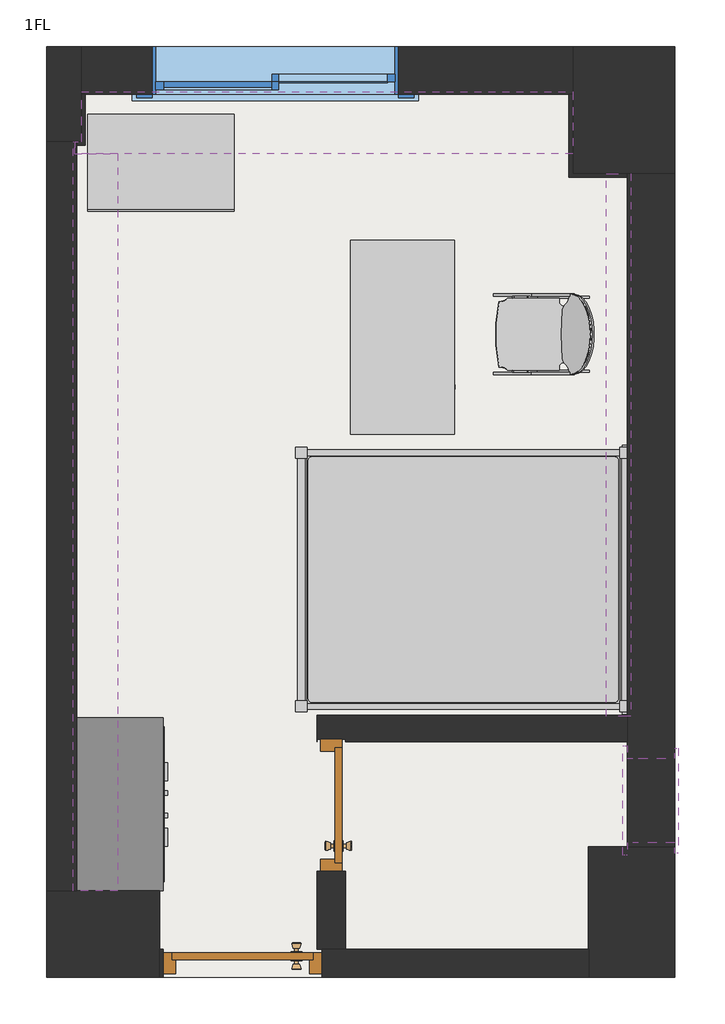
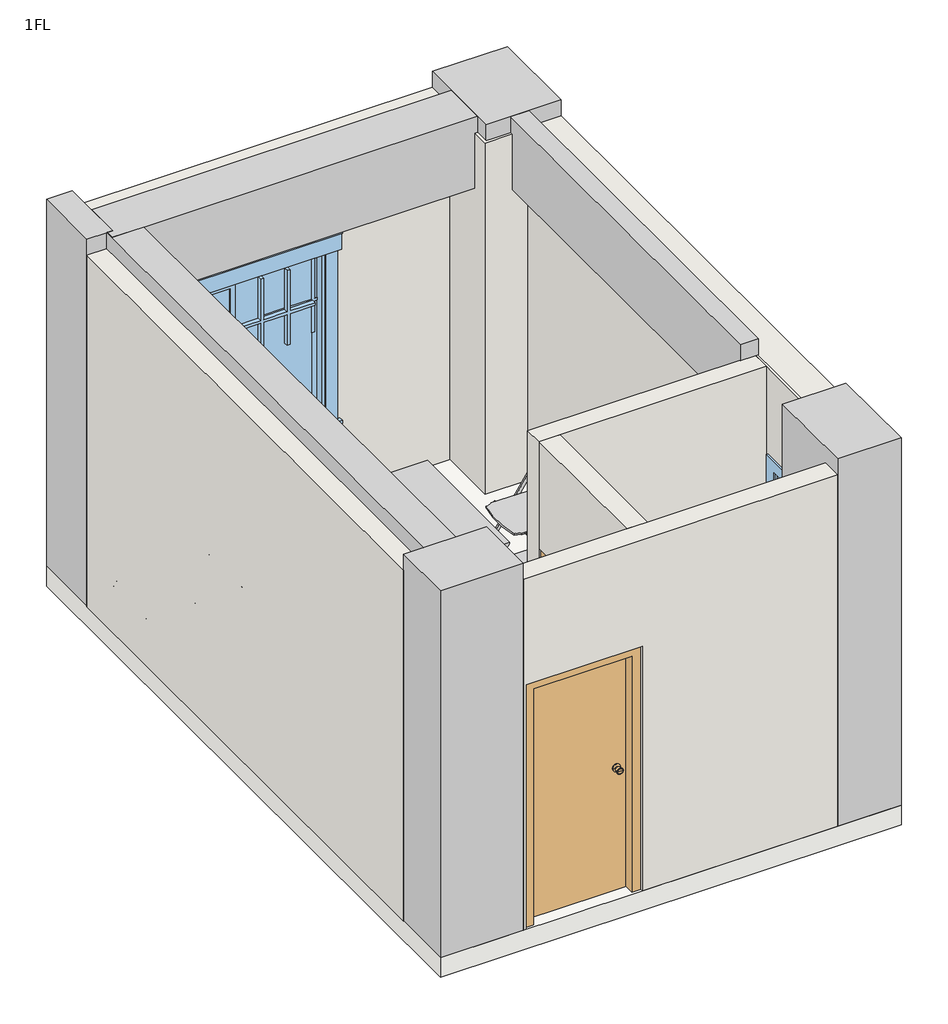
# One storey: 7 walls, 5 furniture elements, 4 columns, 3 beams, 2 doors, 2 windows, 1 slab.
"""IFC4 building model written with IfcOpenShell, lengths in millimetres."""

from ifc_helpers import new_model, si_unit, frame, origin, place, context, project, spatial, polyline, outline, extrude, faceted_brep, transform, mapped, element, save
from components import column_49_x_74cm_deb33982, door_75_x_200_cm_865d52c3, door_90_x_200_cm_73eb9ed9, furniture_3fc448d0, furniture_719fa588, furniture_f24e557b, furniture_dfe98725, china_bed_4dd21ba8, furniture_dc80c863, wall_cee839fa, window_8c946150, window_f16435bf

model = new_model("IFC4")

# Units and contexts
model_context = context("Model", 3, world=origin())
ifc_project = project(units=[si_unit("LENGTHUNIT", "METRE", prefix="MILLI")], contexts=[model_context])

# Site, building, storey
site = spatial("IfcSite", under=ifc_project)
building = spatial("IfcBuilding", under=site)
storey = spatial("IfcBuildingStorey", under=building, Name="1FL", Elevation=300.0)

# Beams
placement = place(None, origin())
element("IfcBeam", 1, ObjectType="混凝土樑-矩形 : 14 x 303cm", at=placement, inside=storey, context=model_context, shape_type="SweptSolid", body=[
    extrude(outline(polyline([(2375.4977464, -2205.3821637), (2235.4977464, -2205.3821637), (2235.4977464, 868.967972), (2375.4977464, 868.967972), (2375.4977464, -2205.3821637)])), frame((0.0, 0.0, 2720.0), z_axis=(0.0, 0.0, 1.0), x_axis=(1.0, 0.0, 0.0)), (0.0, 0.0, 1.0), 580.0),
])
element("IfcBeam", 2, ObjectType="混凝土樑-矩形 : 25 x 451.5cm", at=placement, inside=storey, context=model_context, shape_type="SweptSolid", body=[
    extrude(outline(polyline([(-784.5022536, -3194.327457), (-784.5022536, 1048.967972), (-778.221975, 1048.967972), (-778.221975, 982.1369238), (-534.5022536, 982.1369238), (-534.5022536, -3194.327457), (-784.5022536, -3194.327457)])), frame((0.0, 0.0, 2800.0), z_axis=(0.0, 0.0, 1.0), x_axis=(1.0, 0.0, 0.0)), (0.0, 0.0, 1.0), 500.0),
])
element("IfcBeam", 3, ObjectType="混凝土樑-矩形 : 35 x 283cm", at=placement, inside=storey, context=model_context, shape_type="Brep", body=[
    faceted_brep([(-778.221975, 982.1369238, 3300.0), (-534.5022536, 982.1369238, 3300.0), (2045.4977464, 982.1369238, 3300.0), (2045.4977464, 1332.1369238, 3300.0), (-736.8833533, 1332.1369238, 3300.0), (-736.8833533, 1048.967972, 3300.0), (-778.221975, 1048.967972, 3300.0), (2045.4977464, 1332.1369238, 2720.0), (-736.8833533, 1332.1369238, 2720.0), (2045.4977464, 982.1369238, 2720.0), (-778.221975, 982.1369238, 2720.0), (-778.221975, 1048.967972, 2720.0), (-736.8833533, 1048.967972, 2720.0), (-778.221975, 982.1369238, 2800.0), (-778.221975, 1048.967972, 2800.0)], [[[0, 1, 2, 3, 4, 5, 6]], [[3, 7, 8, 4]], [[9, 10, 11, 12, 8, 7]], [[0, 13, 10, 9, 2, 1]], [[10, 13, 0, 6, 14, 11]], [[3, 2, 9, 7]], [[5, 12, 11, 14, 6]], [[12, 5, 4, 8]]]),
])

# Columns
element("IfcColumn", 4, ObjectType="混凝土柱-矩形 : 20 x 54cm", at=placement, inside=storey, context=model_context, shape_type="Brep", body=[
    faceted_brep([(-736.8833533, 1588.967972, 3300.0), (-936.8833533, 1588.967972, 3300.0), (-936.8833533, 1048.967972, 3300.0), (-784.5022536, 1048.967972, 3300.0), (-778.221975, 1048.967972, 3300.0), (-736.8833533, 1048.967972, 3300.0), (-736.8833533, 1588.967972, 300.0), (-736.8833533, 1048.967972, 300.0), (-936.8833533, 1048.967972, 300.0), (-936.8833533, 1588.967972, 300.0)], [[[0, 1, 2, 3, 4, 5]], [[6, 7, 8, 9]], [[1, 0, 6, 9]], [[2, 1, 9, 8]], [[5, 4, 3, 2, 8, 7]], [[0, 5, 7, 6]]]),
])
element("IfcColumn", 5, ObjectType="混凝土柱-矩形 : 49 x 64cm", at=placement, inside=storey, context=model_context, shape_type="SweptSolid", body=[
    extrude(outline(polyline([(-936.8833533, -3194.327457), (-296.8833533, -3194.327457), (-296.8833533, -3684.327457), (-936.8833533, -3684.327457), (-936.8833533, -3194.327457)])), frame((0.0, 0.0, 300.0), z_axis=(0.0, 0.0, 1.0), x_axis=(1.0, 0.0, 0.0)), (0.0, 0.0, 1.0), 3000.0),
])
column_49_x_74cm_shape = column_49_x_74cm_deb33982(model_context)
element("IfcColumn", 6, ObjectType="混凝土柱-矩形 : 49 x 74cm", at=placement, inside=storey, context=model_context, shape_type="MappedRepresentation", body=[
    mapped(column_49_x_74cm_shape, transform((2380.4977464, -3314.327457, 0.0), x_axis=(1.0, 0.0, 0.0), y_axis=(0.0, 1.0, 0.0), z_axis=(0.0, 0.0, 1.0))),
])
element("IfcColumn", 7, ObjectType="混凝土柱-矩形 : 58 x 72cm", at=placement, inside=storey, context=model_context, shape_type="SweptSolid", body=[
    extrude(outline(polyline([(2625.4977464, 1588.967972), (2625.4977464, 868.967972), (2045.4977464, 868.967972), (2045.4977464, 1588.967972), (2625.4977464, 1588.967972)])), frame((0.0, 0.0, 300.0), z_axis=(0.0, 0.0, 1.0), x_axis=(1.0, 0.0, 0.0)), (0.0, 0.0, 1.0), 3000.0),
])

# Doors
door_75_x_200_cm_shape = door_75_x_200_cm_865d52c3(model_context)
element("IfcDoor", 8, ObjectType="單開-矩形- (1) : 75 x 200 cm", at=placement, inside=storey, context=model_context, shape_type="MappedRepresentation", body=[
    mapped(door_75_x_200_cm_shape, transform((887.7171048, -2709.327457, 300.0), x_axis=(0.0, -1.0, 0.0), y_axis=(1.0, 0.0, 0.0), z_axis=(0.0, 0.0, 1.0))),
])
door_90_x_200_cm_shape = door_90_x_200_cm_73eb9ed9(model_context)
element("IfcDoor", 9, ObjectType="單開-矩形- (1) : 90 x 200 cm", at=placement, inside=storey, context=model_context, shape_type="MappedRepresentation", body=[
    mapped(door_90_x_200_cm_shape, transform((175.2981999, -3394.327457, 300.0), x_axis=(1.0, 0.0, 0.0), y_axis=(0.0, 1.0, 0.0), z_axis=(0.0, 0.0, 1.0))),
])

# Furniture
furniture_shape = furniture_3fc448d0(model_context)
element("IfcFurniture", 10, ObjectType="可摺疊椅 : 可摺疊椅", at=placement, inside=storey, context=model_context, shape_type="MappedRepresentation", body=[
    mapped(furniture_shape, transform((2140.4977464, 187.6342762, 300.0), x_axis=(0.0, -1.0000000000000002, 0.0), y_axis=(1.0000000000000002, 0.0, 0.0), z_axis=(0.0, 0.0, 1.0))),
])
furniture_2_shape = furniture_719fa588(model_context)
element("IfcFurniture", 11, ObjectType="桌子_009 : SB 6165 03 W1900*D590*H720", at=placement, inside=storey, context=model_context, shape_type="MappedRepresentation", body=[
    mapped(furniture_2_shape, transform((925.026465, -58.5193524, 300.0), x_axis=(0.0, 1.0, 0.0), y_axis=(-1.0, 0.0, 0.0), z_axis=(0.0, 0.0, 1.0))),
])
furniture_3_shape = furniture_f24e557b(model_context)
furniture_4_shape = furniture_dfe98725(model_context)
element("IfcFurniture", 12, ObjectType="邊櫃_002 : DB 3020N 01 W465*D550*H650", at=placement, inside=storey, context=model_context, shape_type="MappedRepresentation", body=[
    mapped(furniture_3_shape, transform((-287.9308905, 929.6989444, 300.0), x_axis=(1.0, 0.0, 0.0), y_axis=(0.0, 1.0, 0.0), z_axis=(0.0, 0.0, 1.0))),
    mapped(furniture_4_shape, transform((-287.9308905, 929.6989444, 300.0), x_axis=(1.0, 0.0, 0.0), y_axis=(0.0, 1.0, 0.0), z_axis=(0.0, 0.0, 1.0))),
])
china_bed_shape = china_bed_4dd21ba8(model_context)
element("IfcFurniture", 13, ObjectType="臥床_001 : China Bed", at=placement, inside=storey, context=model_context, shape_type="MappedRepresentation", body=[
    mapped(china_bed_shape, transform((2375.4977464, -1430.3252022, 300.0), x_axis=(0.0, 1.0000000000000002, 0.0), y_axis=(-1.0000000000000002, 0.0, 0.0), z_axis=(0.0, 0.0, 1.0))),
])
furniture_5_shape = furniture_dc80c863(model_context)
element("IfcFurniture", 14, ObjectType="Wardrobe : 48\" x 72\" x 24\"", at=placement, inside=storey, context=model_context, shape_type="MappedRepresentation", body=[
    mapped(furniture_5_shape, transform((-1105.6221628, -2435.1341972, 300.0), x_axis=(0.0, 1.0, 0.0), y_axis=(-1.0, 0.0, 0.0), z_axis=(0.0, 0.0, 1.0))),
])

# Slab
element("IfcSlab", 15, ObjectType="1FL_15cm", at=placement, inside=storey, context=model_context, shape_type="SweptSolid", body=[
    extrude(outline(polyline([(2625.4977464, 1588.967972), (2625.4977464, -3684.327457), (-936.8833533, -3684.327457), (-936.8833533, 1588.967972), (2625.4977464, 1588.967972)])), frame((0.0, 0.0, 140.0), z_axis=(0.0, 0.0, 1.0), x_axis=(1.0, 0.0, 0.0)), (0.0, 0.0, 1.0), 160.0),
])

# Walls
element("IfcWall", 16, ObjectType="1FL_北面_RC 牆_25cm", at=placement, inside=storey, context=model_context, shape_type="Brep", body=[
    faceted_brep([(2045.4977464, 1588.967972, 300.0), (-736.8833533, 1588.967972, 300.0), (-736.8833533, 1588.967972, 3170.0), (2045.4977464, 1588.967972, 3170.0), (-336.8833533, 1588.967972, 2332.0), (-336.8833533, 1588.967972, 942.0), (1058.1166467, 1588.967972, 942.0), (1058.1166467, 1588.967972, 2332.0), (2045.4977464, 1318.967972, 300.0), (2045.4977464, 1318.967972, 3170.0), (-736.8833533, 1318.967972, 3170.0), (-736.8833533, 1318.967972, 300.0), (-336.8833533, 1318.967972, 2332.0), (1058.1166467, 1318.967972, 2332.0), (1058.1166467, 1318.967972, 942.0), (-336.8833533, 1318.967972, 942.0), (-736.8833533, 1332.1369238, 3170.0), (2045.4977464, 1332.1369238, 3170.0)], [[[0, 1, 2, 3], [4, 5, 6, 7]], [[8, 9, 10, 11], [12, 13, 14, 15]], [[1, 0, 8, 11]], [[2, 1, 11, 10, 16]], [[0, 3, 17, 9, 8]], [[3, 2, 16, 17]], [[16, 10, 9, 17]], [[5, 4, 12, 15]], [[6, 5, 15, 14]], [[7, 6, 14, 13]], [[4, 7, 13, 12]]]),
])
element("IfcWall", 17, ObjectType="1FL_東面_RC 牆_25cm", at=placement, inside=storey, context=model_context, shape_type="Brep", body=[
    faceted_brep([(2355.4977464, 868.967972, 300.0), (2355.4977464, -2199.327457, 300.0), (2355.4977464, -2349.327457, 300.0), (2355.4977464, -2944.327457, 300.0), (2355.4977464, -2944.327457, 3170.0), (2355.4977464, -2349.327457, 3170.0), (2355.4977464, -2199.327457, 3170.0), (2355.4977464, 868.967972, 3170.0), (2355.4977464, -2442.5157238, 2400.0), (2355.4977464, -2922.5157238, 2400.0), (2355.4977464, -2922.5157238, 1900.0), (2355.4977464, -2442.5157238, 1900.0), (2625.4977464, 868.967972, 300.0), (2625.4977464, 868.967972, 3170.0), (2625.4977464, -2944.327457, 3170.0), (2625.4977464, -2944.327457, 300.0), (2625.4977464, -2442.5157238, 2400.0), (2625.4977464, -2442.5157238, 1900.0), (2625.4977464, -2922.5157238, 1900.0), (2625.4977464, -2922.5157238, 2400.0), (2375.4977464, -2944.327457, 3170.0), (2375.4977464, 868.967972, 3170.0)], [[[0, 1, 2, 3, 4, 5, 6, 7], [8, 9, 10, 11]], [[12, 13, 14, 15], [16, 17, 18, 19]], [[3, 2, 1, 0, 12, 15]], [[4, 3, 15, 14, 20]], [[0, 7, 21, 13, 12]], [[20, 14, 13, 21]], [[7, 6, 5, 4, 20, 21]], [[17, 16, 8, 11]], [[18, 17, 11, 10]], [[19, 18, 10, 9]], [[16, 19, 9, 8]]]),
])
element("IfcWall", 18, ObjectType="1FL_西面_RC 牆_15cm", at=placement, inside=storey, context=model_context, shape_type="SweptSolid", body=[
    extrude(outline(polyline([(3170.0, -936.8833533), (300.0, -936.8833533), (300.0, -766.8833533), (3170.0, -766.8833533), (3170.0, -784.5022536), (3170.0, -936.8833533)])), frame((0.0, -3194.327457, 0.0), z_axis=(0.0, 1.0, 0.0), x_axis=(0.0, 0.0, 1.0)), (0.0, 0.0, 1.0), 4243.295429),
])
element("IfcWall", 19, ObjectType="RC 牆 15cm", at=placement, inside=storey, context=model_context, shape_type="Brep", body=[
    faceted_brep([(2355.4977464, -2199.327457, 300.0), (595.4977464, -2199.327457, 300.0), (595.4977464, -2199.327457, 3170.0), (2355.4977464, -2199.327457, 3170.0), (595.4977464, -2349.327457, 3170.0), (595.4977464, -2349.327457, 300.0), (597.7171048, -2349.327457, 300.0), (597.7171048, -2349.327457, 2300.0), (757.7171048, -2349.327457, 2300.0), (757.7171048, -2349.327457, 300.0), (2355.4977464, -2349.327457, 300.0), (2355.4977464, -2349.327457, 3170.0), (757.7171048, -2349.327457, 3170.0), (597.7171048, -2349.327457, 3170.0), (757.7171048, -2334.327457, 300.0), (597.7171048, -2334.327457, 300.0), (597.7171048, -2334.327457, 2300.0), (757.7171048, -2334.327457, 2300.0)], [[[0, 1, 2, 3]], [[4, 5, 6, 7, 8, 9, 10, 11, 12, 13]], [[1, 0, 10, 9, 14, 15, 6, 5]], [[2, 1, 5, 4]], [[0, 3, 11, 10]], [[3, 2, 4, 13, 12, 11]], [[15, 16, 7, 6]], [[17, 14, 9, 8]], [[16, 17, 8, 7]], [[16, 15, 14, 17]]]),
])
element("IfcWall", 20, ObjectType="RC 牆 13cm", at=placement, inside=storey, context=model_context, shape_type="Brep", body=[
    faceted_brep([(-294.7018001, -3524.327457, 300.0), (-294.7018001, -3524.327457, 3170.0), (597.7171048, -3524.327457, 3170.0), (757.7171048, -3524.327457, 3170.0), (2137.7171048, -3524.327457, 3170.0), (2137.7171048, -3524.327457, 300.0), (757.7171048, -3524.327457, 300.0), (625.2981999, -3524.327457, 300.0), (625.2981999, -3524.327457, 2300.0), (-274.7018001, -3524.327457, 2300.0), (-274.7018001, -3524.327457, 300.0), (-294.7018001, -3684.327457, 3170.0), (-294.7018001, -3684.327457, 300.0), (-274.7018001, -3684.327457, 300.0), (-274.7018001, -3684.327457, 2300.0), (625.2981999, -3684.327457, 2300.0), (625.2981999, -3684.327457, 300.0), (2137.7171048, -3684.327457, 300.0), (2137.7171048, -3684.327457, 3170.0)], [[[0, 1, 2, 3, 4, 5, 6, 7, 8, 9, 10]], [[11, 12, 13, 14, 15, 16, 17, 18]], [[12, 0, 10, 13]], [[5, 17, 16, 7, 6]], [[1, 0, 12, 11]], [[4, 3, 2, 1, 11, 18]], [[5, 4, 18, 17]], [[15, 8, 7, 16]], [[8, 15, 14, 9]], [[9, 14, 13, 10]]]),
])
element("IfcWall", 21, ObjectType="RC 牆 13cm", at=placement, inside=storey, context=model_context, shape_type="Brep", body=[
    faceted_brep([(757.7171048, -3524.327457, 3170.0), (757.7171048, -3524.327457, 300.0), (757.7171048, -3084.327457, 300.0), (757.7171048, -3084.327457, 2300.0), (757.7171048, -2349.327457, 2300.0), (757.7171048, -2349.327457, 3170.0), (597.7171048, -3524.327457, 300.0), (597.7171048, -3524.327457, 3170.0), (597.7171048, -2349.327457, 3170.0), (597.7171048, -2349.327457, 2300.0), (597.7171048, -3084.327457, 2300.0), (597.7171048, -3084.327457, 300.0), (625.2981999, -3524.327457, 300.0)], [[[0, 1, 2, 3, 4, 5]], [[6, 7, 8, 9, 10, 11]], [[1, 12, 6, 11, 2]], [[8, 5, 4, 9]], [[1, 0, 7, 6, 12]], [[0, 5, 8, 7]], [[10, 3, 2, 11]], [[3, 10, 9, 4]]]),
])
wall_shape = wall_cee839fa(model_context)
element("IfcWall", 22, ObjectType="柱木牆 : 柱木牆", at=placement, inside=storey, context=model_context, shape_type="MappedRepresentation", body=[
    mapped(wall_shape, transform((0.0, 0.0, 0.0), x_axis=(1.0, 0.0, 0.0), y_axis=(0.0, 1.0, 0.0), z_axis=(0.0, 0.0, 1.0))),
])

# Windows
window_shape = window_8c946150(model_context)
element("IfcWindow", 23, ObjectType="窗_002 : 窗_002", at=placement, inside=storey, context=model_context, shape_type="MappedRepresentation", body=[
    mapped(window_shape, transform((11.8666467, 1453.967972, 300.0), x_axis=(-1.0, 0.0, 0.0), y_axis=(0.0, -1.0, 0.0), z_axis=(0.0, 0.0, 1.0))),
])
window_2_shape = window_f16435bf(model_context)
element("IfcWindow", 24, ObjectType="Casement Dbl with Trim : 48\" x 48\"", at=placement, inside=storey, context=model_context, shape_type="MappedRepresentation", body=[
    mapped(window_2_shape, transform((2509.5477464, -2682.5157238, 985.6), x_axis=(0.0, 1.0, 0.0), y_axis=(-1.0, 0.0, 0.0), z_axis=(0.0, 0.0, 1.0))),
])

save(model, "model.ifc")
